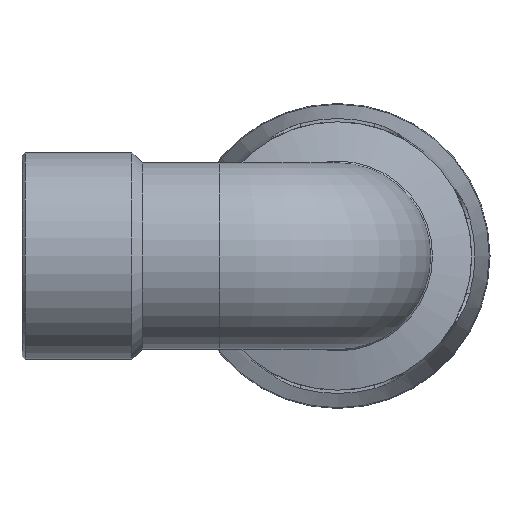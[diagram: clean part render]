
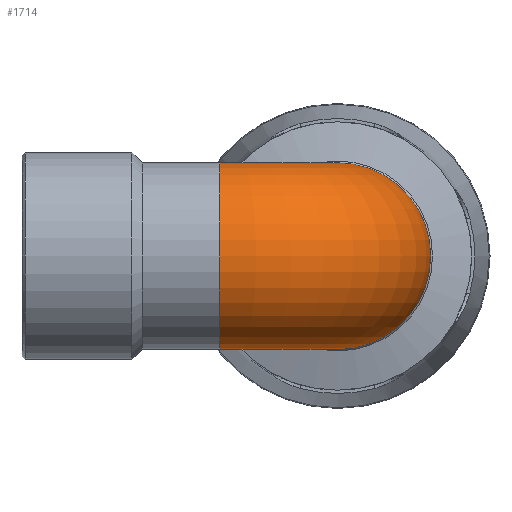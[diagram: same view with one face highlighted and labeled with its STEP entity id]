
A CAD part, left-side view. The second image highlights one B-rep face of the part: STEP entity #1714.
In plain terms, the highlighted toroidal (fillet/blend) face has major radius 22.382 mm and minor radius 17.72 mm.
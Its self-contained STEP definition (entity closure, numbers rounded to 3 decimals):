
#356=FACE_BOUND('',#509,.T.);
#384=FACE_OUTER_BOUND('',#508,.T.);
#508=EDGE_LOOP('',(#1160));
#509=EDGE_LOOP('',(#1161));
#615=CIRCLE('',#1814,17.72);
#621=CIRCLE('',#1824,17.72);
#710=VERTEX_POINT('',#2509);
#716=VERTEX_POINT('',#2525);
#869=EDGE_CURVE('',#710,#710,#615,.T.);
#875=EDGE_CURVE('',#716,#716,#621,.T.);
#1160=ORIENTED_EDGE('',*,*,#869,.F.);
#1161=ORIENTED_EDGE('',*,*,#875,.T.);
#1586=TOROIDAL_SURFACE('',#1868,22.382,17.72);
#1714=ADVANCED_FACE('',(#384,#356),#1586,.T.);
#1814=AXIS2_PLACEMENT_3D('',#2510,#2025,#2026);
#1824=AXIS2_PLACEMENT_3D('',#2526,#2045,#2046);
#1868=AXIS2_PLACEMENT_3D('',#2604,#2133,#2134);
#2025=DIRECTION('center_axis',(1.,0.,0.));
#2026=DIRECTION('ref_axis',(0.,-1.,0.));
#2045=DIRECTION('center_axis',(0.,-1.,0.));
#2046=DIRECTION('ref_axis',(-1.,0.,0.));
#2133=DIRECTION('center_axis',(0.,0.,1.));
#2134=DIRECTION('ref_axis',(1.,0.,0.));
#2509=CARTESIAN_POINT('',(22.382,17.72,0.));
#2510=CARTESIAN_POINT('Origin',(22.382,0.,0.));
#2525=CARTESIAN_POINT('',(17.72,22.382,0.));
#2526=CARTESIAN_POINT('Origin',(0.,22.382,0.));
#2604=CARTESIAN_POINT('Origin',(22.382,22.382,0.));
